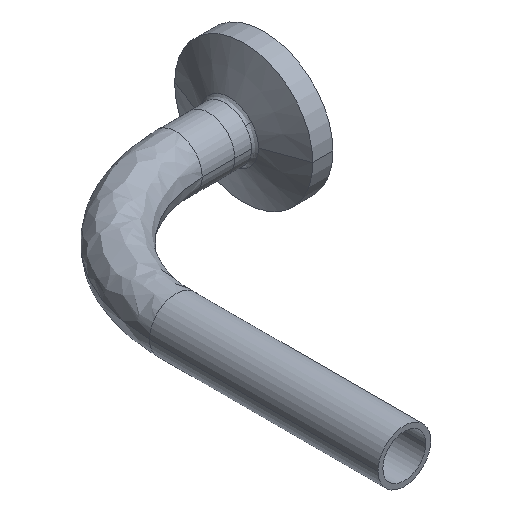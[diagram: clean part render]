
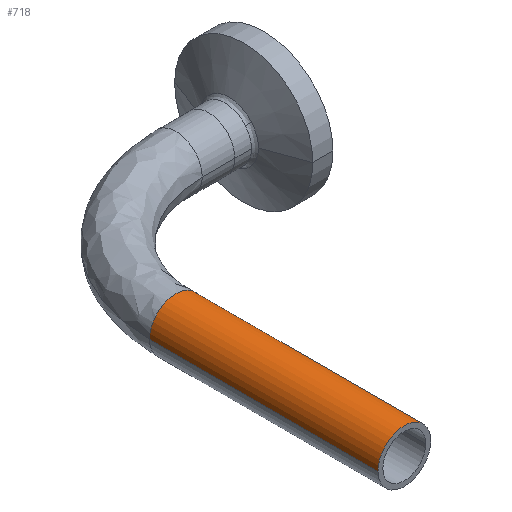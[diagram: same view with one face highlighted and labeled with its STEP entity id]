
A CAD part, isometric view. The second image highlights one B-rep face of the part: STEP entity #718.
In plain terms, the highlighted cylindrical face has radius 4.765 mm (diameter 9.53 mm), a partial arc.
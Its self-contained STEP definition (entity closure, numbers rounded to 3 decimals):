
#55 = DIRECTION ( 'NONE',  ( 1., 0., 0. ) ) ;
#60 = DIRECTION ( 'NONE',  ( 0., -1., 0. ) ) ;
#66 = CARTESIAN_POINT ( 'NONE',  ( 0., 41.3, 0. ) ) ;
#75 = CIRCLE ( 'NONE', #232, 4.765 ) ;
#82 = AXIS2_PLACEMENT_3D ( 'NONE', #469, #171, #281 ) ;
#117 = DIRECTION ( 'NONE',  ( 1., 0., 0. ) ) ;
#133 = CARTESIAN_POINT ( 'NONE',  ( -4.765, 41.3, 0. ) ) ;
#139 = FACE_OUTER_BOUND ( 'NONE', #754, .T. ) ;
#164 = DIRECTION ( 'NONE',  ( 0., -1., 0. ) ) ;
#171 = DIRECTION ( 'NONE',  ( 0., 1., 0. ) ) ;
#232 = AXIS2_PLACEMENT_3D ( 'NONE', #66, #60, #55 ) ;
#255 = EDGE_CURVE ( 'NONE', #387, #646, #1220, .T. ) ;
#280 = VECTOR ( 'NONE', #1174, 1000. ) ;
#281 = DIRECTION ( 'NONE',  ( 1., 0., 0. ) ) ;
#284 = EDGE_CURVE ( 'NONE', #485, #387, #913, .T. ) ;
#287 = CARTESIAN_POINT ( 'NONE',  ( -4.765, 41.3, 0. ) ) ;
#385 = CYLINDRICAL_SURFACE ( 'NONE', #772, 4.765 ) ;
#387 = VERTEX_POINT ( 'NONE', #779 ) ;
#402 = VERTEX_POINT ( 'NONE', #1252 ) ;
#469 = CARTESIAN_POINT ( 'NONE',  ( 0., 0., 0. ) ) ;
#485 = VERTEX_POINT ( 'NONE', #133 ) ;
#535 = VECTOR ( 'NONE', #657, 1000. ) ;
#566 = ORIENTED_EDGE ( 'NONE', *, *, #991, .T. ) ;
#608 = CARTESIAN_POINT ( 'NONE',  ( 0., 41.3, 0. ) ) ;
#646 = VERTEX_POINT ( 'NONE', #961 ) ;
#654 = EDGE_CURVE ( 'NONE', #402, #646, #674, .T. ) ;
#657 = DIRECTION ( 'NONE',  ( 0., -1., 0. ) ) ;
#674 = LINE ( 'NONE', #954, #535 ) ;
#718 = ADVANCED_FACE ( 'NONE', ( #139 ), #385, .T. ) ;
#754 = EDGE_LOOP ( 'NONE', ( #566, #1254, #943, #819 ) ) ;
#772 = AXIS2_PLACEMENT_3D ( 'NONE', #608, #164, #117 ) ;
#779 = CARTESIAN_POINT ( 'NONE',  ( -4.765, 0., 0. ) ) ;
#819 = ORIENTED_EDGE ( 'NONE', *, *, #654, .F. ) ;
#913 = LINE ( 'NONE', #287, #280 ) ;
#943 = ORIENTED_EDGE ( 'NONE', *, *, #255, .T. ) ;
#954 = CARTESIAN_POINT ( 'NONE',  ( 4.765, 41.3, 0. ) ) ;
#961 = CARTESIAN_POINT ( 'NONE',  ( 4.765, 0., 0. ) ) ;
#991 = EDGE_CURVE ( 'NONE', #402, #485, #75, .T. ) ;
#1174 = DIRECTION ( 'NONE',  ( 0., -1., 0. ) ) ;
#1220 = CIRCLE ( 'NONE', #82, 4.765 ) ;
#1252 = CARTESIAN_POINT ( 'NONE',  ( 4.765, 41.3, 0. ) ) ;
#1254 = ORIENTED_EDGE ( 'NONE', *, *, #284, .T. ) ;
